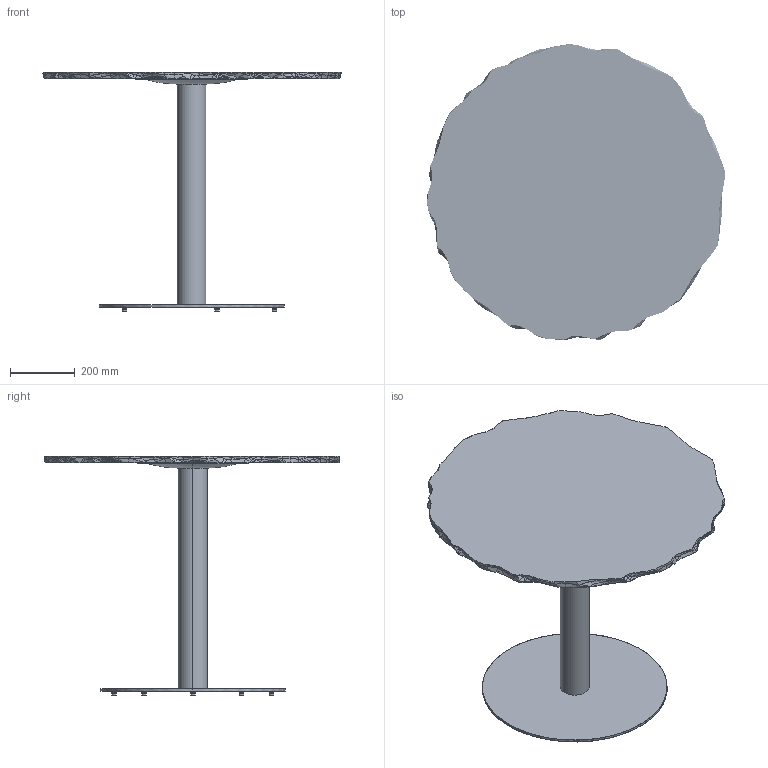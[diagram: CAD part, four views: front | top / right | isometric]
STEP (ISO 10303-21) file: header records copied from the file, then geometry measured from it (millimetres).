
FILE_DESCRIPTION(/* description */ (''),/* implementation_level */ '2;1');
FILE_NAME(/* name */ 'Mineral Dining table_3D',/* time_stamp */ '2022-04-27T10:07:51+02:00',/* author */ (''),/* organization */ (''),/* preprocessor_version */ 'ST-DEVELOPER v16.5',/* originating_system */ 'Rhino 7.17',/* authorisation */ '');
FILE_SCHEMA (('CONFIG_CONTROL_DESIGN'));
Length unit declared in the file: millimetre
Products named in the file (1): Document
Bounding box: 920.51 x 911.15 x 739 mm (x, y, z)
Volume: 13174204.4 mm3; surface area: 2365210.5 mm2
Topology: 30 solids, 37 shells, 2121 faces, 5562 edges, 3428 vertices
Faces by surface type: bspline 837, cylinder 779, plane 505
Entity records: 189045 total; most frequent: CARTESIAN_POINT 154816, ORIENTED_EDGE 10360, EDGE_CURVE 5228, B_SPLINE_CURVE_WITH_KNOTS 4323, VERTEX_POINT 3188, EDGE_LOOP 2134, ADVANCED_FACE 2075, FACE_OUTER_BOUND 2075
